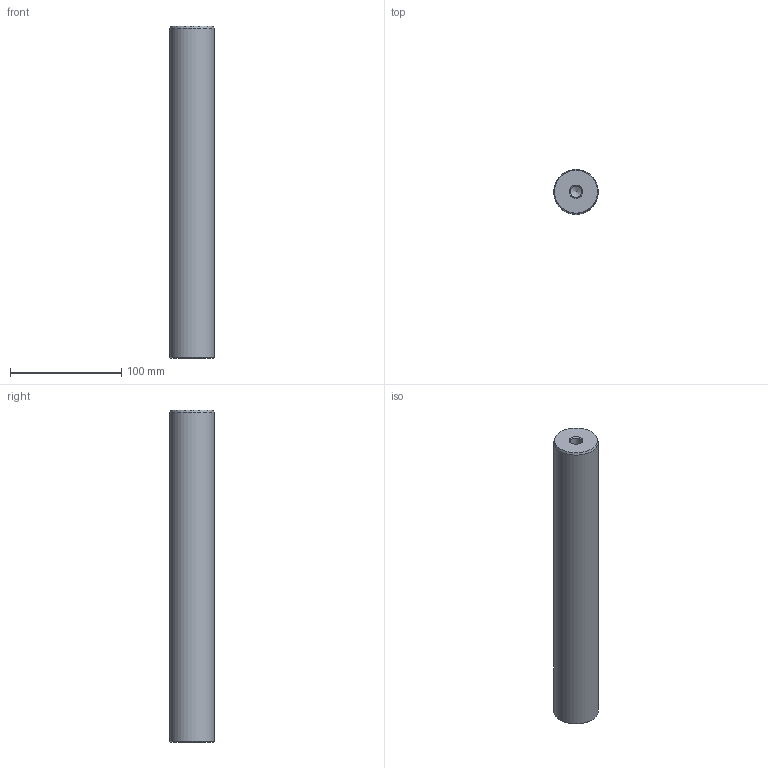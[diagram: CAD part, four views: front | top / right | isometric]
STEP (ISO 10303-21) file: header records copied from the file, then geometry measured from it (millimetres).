
FILE_DESCRIPTION( ( 'STEP AP214' ), '1' );
FILE_NAME( 'U:/Etudes/Top Solid/BIBLIO 3D AVM/STEP/G_GUIDAGE/Accessoires/Colonnes/Ø40x298.step', '2007-06-18T12:29:24', ( ' ' ), ( ' ' ), 'XStep 1.0', ' ', ' ' );
FILE_SCHEMA( ( 'automotive_design' ) );
Length unit declared in the file: metre
Products named in the file (1): 1
Bounding box: 40 x 40 x 298 mm (x, y, z)
Volume: 369118.9 mm3; surface area: 41842.7 mm2
Topology: 1 solids, 1 shells, 13 faces, 27 edges, 16 vertices
Faces by surface type: cone 6, cylinder 5, plane 2
Full cylindrical faces by diameter (mm): 10.106 x4, 40 x1
Entity records: 382 total; most frequent: DIRECTION 52, CARTESIAN_POINT 40, AXIS2_PLACEMENT_3D 26, EDGE_LOOP 24, ORIENTED_EDGE 24, FACE_OUTER_BOUND 18, VERTEX_POINT 14, STYLED_ITEM 13
